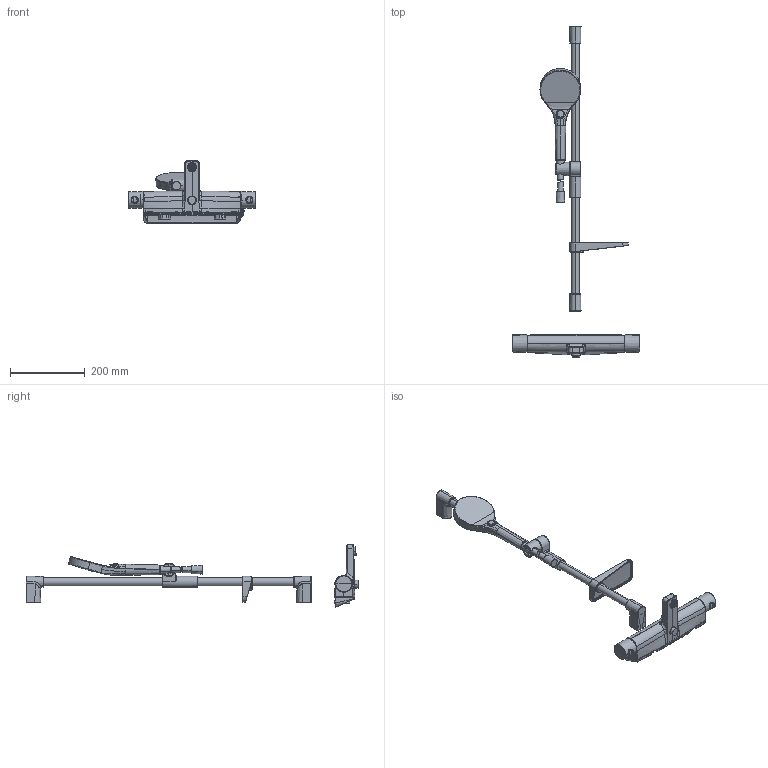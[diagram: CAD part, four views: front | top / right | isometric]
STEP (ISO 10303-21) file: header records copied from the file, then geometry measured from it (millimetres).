
FILE_DESCRIPTION (( 'STEP AP203' ), '1' );
FILE_NAME ('7149N(2023).STEP', '2023-03-24T08:38:03', ( '' ), ( '' ), 'SwSTEP 2.0', 'SolidWorks 2016', '' );
FILE_SCHEMA (( 'CONFIG_CONTROL_DESIGN' ));
Length unit declared in the file: millimetre
Products named in the file (1): 7149N(2023)
Bounding box: 342.5 x 890.72 x 167.83 mm (x, y, z)
Surface area: 368338.7 mm2 (no closed solid volume)
Topology: 0 solids, 35 shells, 5037 faces, 12045 edges, 6972 vertices
Faces by surface type: bspline 2780, cylinder 1112, plane 719, cone 376, torus 40, sphere 10
Entity records: 259983 total; most frequent: CARTESIAN_POINT 169386, ORIENTED_EDGE 23766, EDGE_CURVE 11894, DIRECTION 11058, VERTEX_POINT 6973, B_SPLINE_CURVE_WITH_KNOTS 6912, EDGE_LOOP 5207, ADVANCED_FACE 5039
